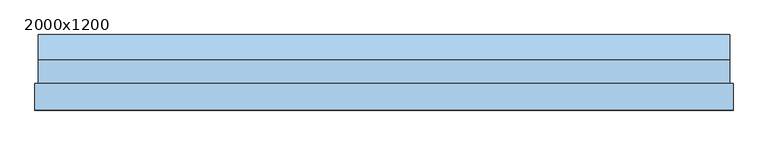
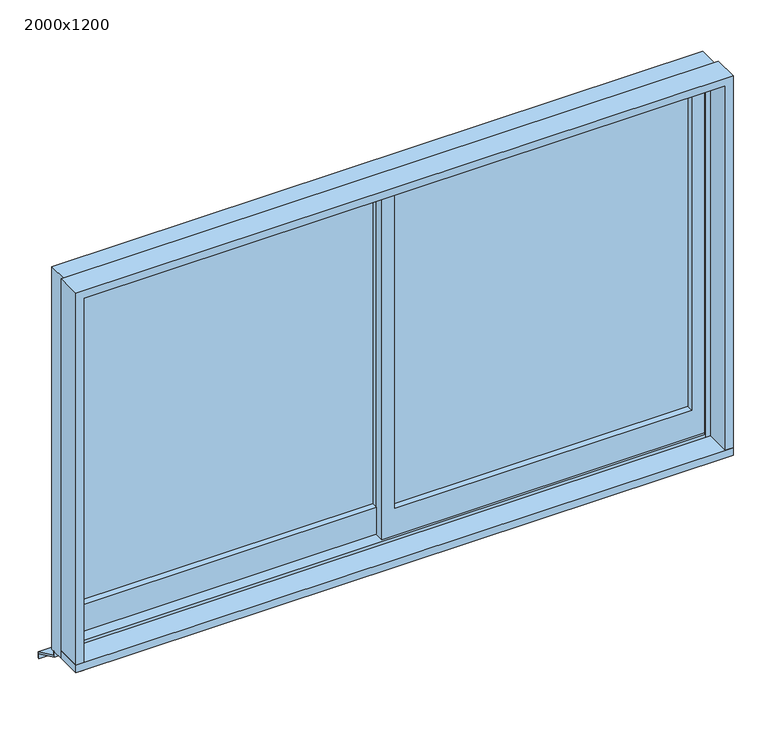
"""IFC4 building model written with IfcOpenShell, lengths in millimetres: window geometry, 鋼製_一般枠_引違い-二枚 : 2000x1200."""

from ifc_helpers import new_model, si_unit, frame, origin, place, context, project, spatial, polyline, outline, extrude, source, transform, mapped, element, save


def window_2000x1200_fc91d1cf(model_context):
    return source(origin(), model_context, "Body", "SweptSolid", [
        extrude(outline(polyline([(960.0, -1.0), (20.0, -1.0), (20.0, 4.0), (960.0, 4.0), (960.0, -1.0)])), frame((0.0, 0.0, 990.0), z_axis=(0.0, 0.0, 1.0), x_axis=(1.0, 0.0, 0.0)), (0.0, 0.0, 1.0), 1070.0),
        extrude(outline(polyline([(2100.0, 1000.0), (2100.0, -20.0), (900.0, -20.0), (900.0, 1000.0), (2100.0, 1000.0)]), holes=[polyline([(2060.0, 960.0), (990.0, 960.0), (990.0, 20.0), (2060.0, 20.0), (2060.0, 960.0)])]), frame((0.0, -21.0, 0.0), z_axis=(0.0, 1.0, 0.0), x_axis=(0.0, 0.0, 1.0)), (0.0, 0.0, 1.0), 30.0),
        extrude(outline(polyline([(-20.0, 29.0), (-960.0, 29.0), (-960.0, 34.0), (-20.0, 34.0), (-20.0, 29.0)])), frame((0.0, 0.0, 990.0), z_axis=(0.0, 0.0, 1.0), x_axis=(1.0, 0.0, 0.0)), (0.0, 0.0, 1.0), 1070.0),
        extrude(outline(polyline([(2100.0, 20.0), (2100.0, -1000.0), (900.0, -1000.0), (900.0, 20.0), (2100.0, 20.0)]), holes=[polyline([(2060.0, -20.0), (990.0, -20.0), (990.0, -960.0), (2060.0, -960.0), (2060.0, -20.0)])]), frame((0.0, 9.0, 0.0), z_axis=(0.0, 1.0, 0.0), x_axis=(0.0, 0.0, 1.0)), (0.0, 0.0, 1.0), 30.0),
        extrude(outline(polyline([(1040.0, -110.0), (-1040.0, -110.0), (-1040.0, -30.0), (1040.0, -30.0), (1040.0, -110.0)])), frame((0.0, 0.0, 865.0), z_axis=(0.0, 0.0, 1.0), x_axis=(1.0, 0.0, 0.0)), (0.0, 0.0, 1.0), 25.0),
        extrude(outline(polyline([(30.0, 835.0), (115.0, 795.0), (115.0, 775.0), (110.0014518, 775.0), (110.0014518, 791.8262891), (25.0, 831.8269723), (25.0, 850.0), (30.0, 850.0), (30.0, 835.0)])), frame((-1030.0, 0.0, 0.0), z_axis=(1.0, 0.0, 0.0), x_axis=(0.0, 1.0, 0.0)), (0.0, 0.0, 1.0), 2060.0),
        extrude(outline(polyline([(865.0, -1040.0), (865.0, -1015.0), (2110.0, -1015.0), (2110.0, 1015.0), (865.0, 1015.0), (865.0, 1040.0), (2135.0, 1040.0), (2135.0, -1040.0), (865.0, -1040.0)])), frame((0.0, -110.0, 0.0), z_axis=(0.0, 1.0, 0.0), x_axis=(0.0, 0.0, 1.0)), (0.0, 0.0, 1.0), 80.0),
        extrude(outline(polyline([(850.0, -1030.0), (850.0, -1000.0), (2100.0, -1000.0), (2100.0, 1000.0), (850.0, 1000.0), (850.0, 1030.0), (2130.0, 1030.0), (2130.0, -1030.0), (850.0, -1030.0)])), frame((0.0, -30.0, 0.0), z_axis=(0.0, 1.0, 0.0), x_axis=(0.0, 0.0, 1.0)), (0.0, 0.0, 1.0), 70.0),
        extrude(outline(polyline([(-30.0, 850.0), (-30.0, 900.0), (40.0, 890.6666667), (40.0, 850.0), (-30.0, 850.0)])), frame((-1000.0, 0.0, 0.0), z_axis=(1.0, 0.0, 0.0), x_axis=(0.0, 1.0, 0.0)), (0.0, 0.0, 1.0), 2000.0),
    ])


if __name__ == "__main__":
    model = new_model("IFC4")
    model_context = context("Model", 3, world=origin())
    ifc_project = project(units=[si_unit("LENGTHUNIT", "METRE", prefix="MILLI")], contexts=[model_context])
    site = spatial("IfcSite", under=ifc_project)
    building = spatial("IfcBuilding", under=site)
    placement = place(None, origin())
    window_2000x1200_shape = window_2000x1200_fc91d1cf(model_context)
    element("IfcWindow", 1, ObjectType="鋼製_一般枠_引違い-二枚 : 2000x1200", at=placement, inside=building, context=model_context, shape_type="MappedRepresentation", body=[
        mapped(window_2000x1200_shape, transform((0.0, 0.0, 0.0), x_axis=(1.0, 0.0, 0.0), y_axis=(0.0, 1.0, 0.0), z_axis=(0.0, 0.0, 1.0))),
    ])
    save(model, "model.ifc")
